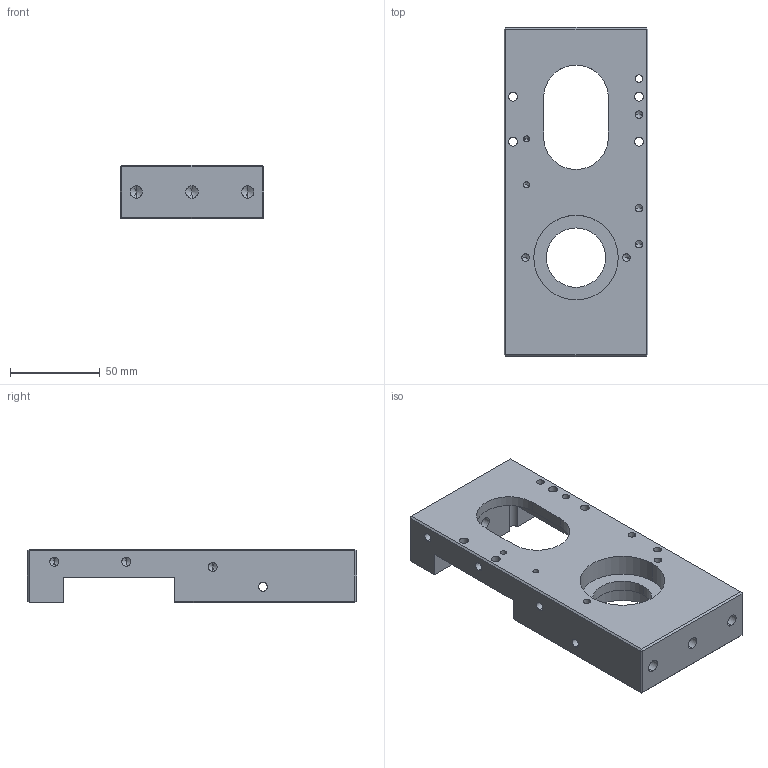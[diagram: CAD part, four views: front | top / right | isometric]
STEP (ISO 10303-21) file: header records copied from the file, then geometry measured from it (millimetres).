
FILE_DESCRIPTION (( 'STEP AP203' ), '1' );
FILE_NAME ('CY-DD-B006.step', '2023-12-27T04:44:06', ( '1' ), ( '' ), 'SwSTEP 2.0', 'SolidWorks 2022', '' );
FILE_SCHEMA (( 'CONFIG_CONTROL_DESIGN' ));
Length unit declared in the file: millimetre
Products named in the file (1): CY-DD-B006
Bounding box: 80 x 183 x 30 mm (x, y, z)
Volume: 267496.7 mm3; surface area: 54605.2 mm2
Topology: 1 solids, 1 shells, 174 faces, 434 edges, 243 vertices
Faces by surface type: cylinder 83, cone 48, plane 43
Entity records: 5139 total; most frequent: CARTESIAN_POINT 1022, DIRECTION 888, ORIENTED_EDGE 776, EDGE_CURVE 388, AXIS2_PLACEMENT_3D 337, VERTEX_POINT 243, EDGE_LOOP 227, VECTOR 214
